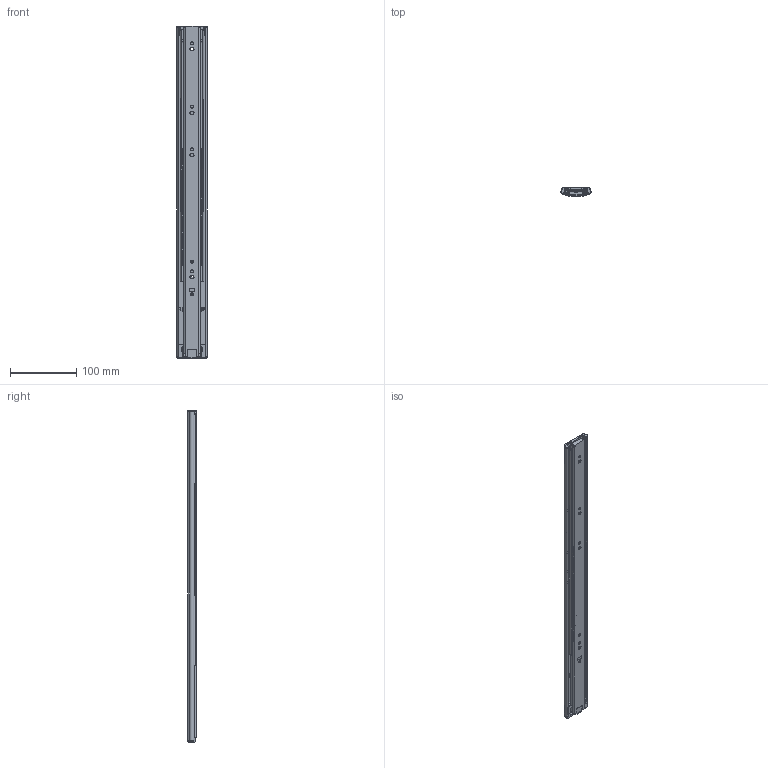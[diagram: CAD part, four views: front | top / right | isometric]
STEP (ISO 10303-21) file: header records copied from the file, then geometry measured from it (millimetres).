
FILE_DESCRIPTION((''),'2;1');
FILE_NAME('C:\Users\Jennes.SOLINGEN\Desktop\Melches\NeueFormate\TS 454613-500 SC\TS 454613 - 500mm SC.stp','2011-01-20T11:33:38',('jennes'),(''),'Autodesk Inventor 2010','Autodesk Inventor 2010','');
FILE_SCHEMA(('AUTOMOTIVE_DESIGN { 1 0 10303 214 1 1 1 1 }'));
Length unit declared in the file: millimetre
Products named in the file (24): TS 454613 - 500mm SC; Schiene gross 500; Endkappe Schiene gross; Softclose; Führung für Schieber; Gummi Puffer; Schieber; Riegel; Zylinderkolben; Zylinderstange; Kugelkäfigleiste 500; Kugel 4,75mm; Schiene mittig 500; Endkappe Schiene mittig; Kugelkäfig 500; Schiene schmall 500; Niete; Schliesser; Sicherung
Assembly tree (59 placements, depth 4):
  TS 454613 - 500mm SC
    Schiene gross 500
      Schiene gross 500
      Endkappe Schiene gross
      Softclose
        Führung für Schieber
        Gummi Puffer
        Schieber
        Riegel
        Zylinderkolben
        Zylinderstange
    Kugelkäfigleiste 500  x2
      Kugelkäfigleiste 500
      Kugel 4,75mm
    Schiene mittig 500
      Schiene mittig 500
      Endkappe Schiene mittig
    Kugelkäfig 500
      Kugelkäfig 500
      Kugel 4,75mm  x28
    Schiene schmall 500
      Schiene schmall 500
      Niete  x2
      Schliesser
      Sicherung
Bounding box: 45.98 x 12.5 x 501.1 mm (x, y, z)
Volume: 115288.1 mm3; surface area: 182285.1 mm2
Topology: 61 solids, 61 shells, 1745 faces, 5097 edges, 3259 vertices
Faces by surface type: plane 983, cylinder 599, sphere 66, torus 49, bspline 48
Full cylindrical faces by diameter (mm): 1.15 x1, 1.78 x2, 1.8 x1, 2.35 x2, 2.45 x1, 3 x2, 3.3 x2, 4.2 x2, 4.4 x4, 4.6 x5, 4.95 x14, 5 x4, 5.3 x1, 5.4 x1, 6.4 x3, 7.8 x2, 9 x1, 9.3 x1, 9.55 x1, 11 x7
Entity records: 57157 total; most frequent: CARTESIAN_POINT 11784, ORIENTED_EDGE 9480, DIRECTION 9235, EDGE_CURVE 4740, VECTOR 3427, LINE 3427, VERTEX_POINT 3090, AXIS2_PLACEMENT_3D 2904
